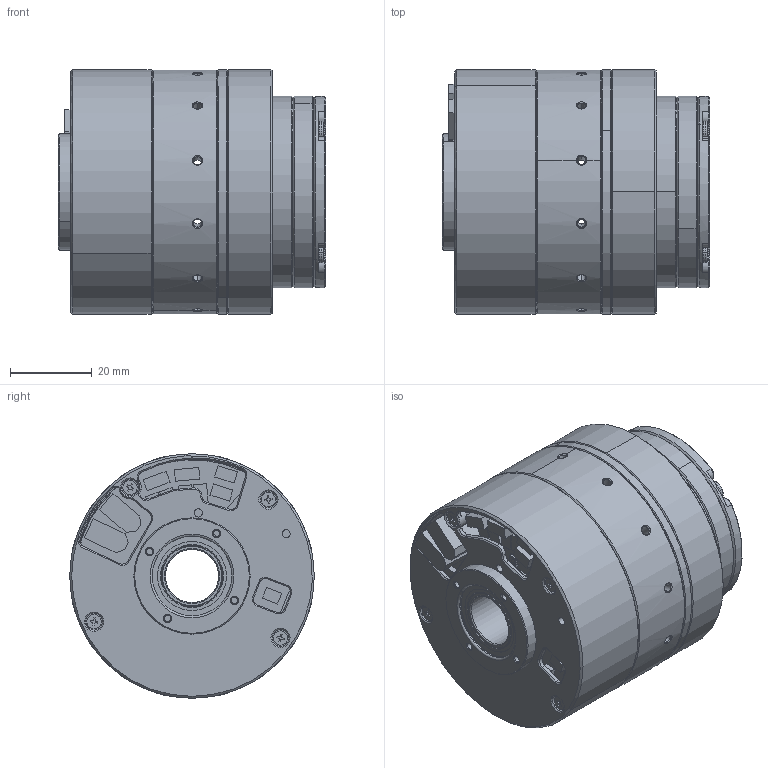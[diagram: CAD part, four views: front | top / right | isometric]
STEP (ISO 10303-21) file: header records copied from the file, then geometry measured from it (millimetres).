
FILE_DESCRIPTION (( 'STEP AP203' ), '1' );
FILE_NAME ('CRA-RI50-60-PRO-XX-2E-EC.STEP', '2024-08-26T05:50:41', ( '' ), ( '' ), 'SwSTEP 2.0', 'SolidWorks 2021', '' );
FILE_SCHEMA (( 'CONFIG_CONTROL_DESIGN' ));
Length unit declared in the file: millimetre
Products named in the file (1): CRA-RI50-60-PRO-XX-2E-EC
Bounding box: 65.5 x 60 x 60 mm (x, y, z)
Surface area: 35517.6 mm2 (no closed solid volume)
Topology: 0 solids, 78 shells, 945 faces, 3381 edges, 2450 vertices
Faces by surface type: plane 382, cylinder 287, cone 226, torus 50
Entity records: 39130 total; most frequent: CARTESIAN_POINT 10041, DIRECTION 6335, ORIENTED_EDGE 5181, EDGE_CURVE 3371, VERTEX_POINT 2450, AXIS2_PLACEMENT_3D 2277, LINE 1781, VECTOR 1781
